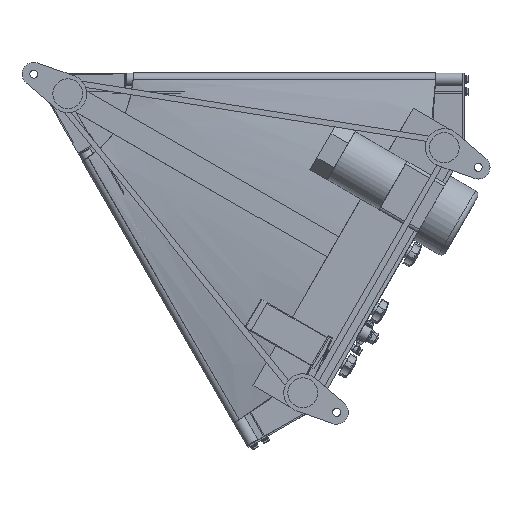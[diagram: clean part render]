
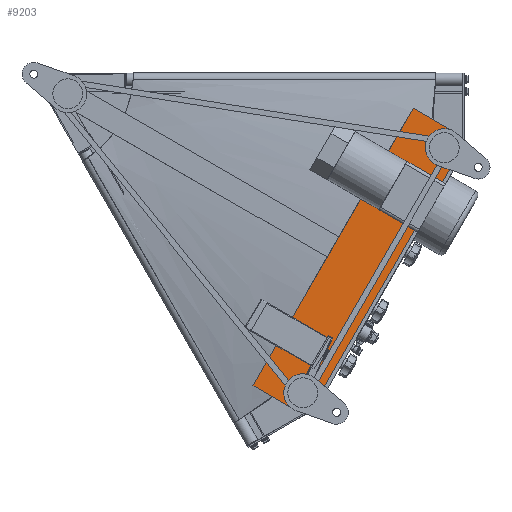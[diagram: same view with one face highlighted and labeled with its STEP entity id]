
A CAD part, front view. The second image highlights one B-rep face of the part: STEP entity #9203.
In plain terms, the highlighted planar face has unit normal (0, -1, 0).
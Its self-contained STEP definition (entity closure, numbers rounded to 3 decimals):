
#173 = DIRECTION ( 'NONE',  ( -0.966, 0., -0.259 ) ) ;
#488 = LINE ( 'NONE', #11726, #7802 ) ;
#623 = EDGE_CURVE ( 'NONE', #30992, #2539, #24780, .T. ) ;
#697 = CARTESIAN_POINT ( 'NONE',  ( 612.827, -167.5, -56.48 ) ) ;
#1005 = VECTOR ( 'NONE', #15066, 1000. ) ;
#2539 = VERTEX_POINT ( 'NONE', #18213 ) ;
#3362 = CARTESIAN_POINT ( 'NONE',  ( 456.929, -167.5, -526.503 ) ) ;
#4043 = VECTOR ( 'NONE', #173, 1000. ) ;
#4091 = LINE ( 'NONE', #3362, #17678 ) ;
#4757 = LINE ( 'NONE', #6599, #7203 ) ;
#4894 = ORIENTED_EDGE ( 'NONE', *, *, #26137, .F. ) ;
#5098 = ORIENTED_EDGE ( 'NONE', *, *, #10538, .F. ) ;
#5139 = VERTEX_POINT ( 'NONE', #18744 ) ;
#5459 = AXIS2_PLACEMENT_3D ( 'NONE', #21938, #8838, #6172 ) ;
#5719 = VERTEX_POINT ( 'NONE', #697 ) ;
#5967 = DIRECTION ( 'NONE',  ( -0.5, 0., -0.866 ) ) ;
#6172 = DIRECTION ( 'NONE',  ( 0.208, 0., 0.978 ) ) ;
#6599 = CARTESIAN_POINT ( 'NONE',  ( 355.327, -167.5, -502.483 ) ) ;
#7203 = VECTOR ( 'NONE', #32675, 1000. ) ;
#7311 = DIRECTION ( 'NONE',  ( 0.259, 0., -0.966 ) ) ;
#7802 = VECTOR ( 'NONE', #7311, 1000. ) ;
#8838 = DIRECTION ( 'NONE',  ( 0., 1., 0. ) ) ;
#9120 = FACE_OUTER_BOUND ( 'NONE', #24627, .T. ) ;
#9203 = ADVANCED_FACE ( 'NONE', ( #9120 ), #14008, .F. ) ;
#10538 = EDGE_CURVE ( 'NONE', #5139, #33567, #4091, .T. ) ;
#11726 = CARTESIAN_POINT ( 'NONE',  ( 684.429, -167.5, -132.461 ) ) ;
#14008 = PLANE ( 'NONE',  #5459 ) ;
#14313 = LINE ( 'NONE', #28720, #4043 ) ;
#15066 = DIRECTION ( 'NONE',  ( 0.866, 0., -0.5 ) ) ;
#17678 = VECTOR ( 'NONE', #5967, 1000. ) ;
#17844 = VERTEX_POINT ( 'NONE', #32522 ) ;
#18213 = CARTESIAN_POINT ( 'NONE',  ( 355.327, -167.5, -502.483 ) ) ;
#18744 = CARTESIAN_POINT ( 'NONE',  ( 684.429, -167.5, -132.461 ) ) ;
#19846 = CARTESIAN_POINT ( 'NONE',  ( 355.327, -167.5, -502.483 ) ) ;
#20260 = CARTESIAN_POINT ( 'NONE',  ( 612.827, -167.5, -56.48 ) ) ;
#20279 = EDGE_CURVE ( 'NONE', #2539, #5719, #4757, .T. ) ;
#21938 = CARTESIAN_POINT ( 'NONE',  ( 9.062, -167.5, -5.232 ) ) ;
#24627 = EDGE_LOOP ( 'NONE', ( #4894, #27009, #29609, #27188, #28577, #5098 ) ) ;
#24633 = CARTESIAN_POINT ( 'NONE',  ( 415.948, -167.5, -537.483 ) ) ;
#24780 = LINE ( 'NONE', #19846, #31341 ) ;
#25073 = DIRECTION ( 'NONE',  ( -0.866, 0., 0.5 ) ) ;
#26137 = EDGE_CURVE ( 'NONE', #17844, #5139, #488, .T. ) ;
#27009 = ORIENTED_EDGE ( 'NONE', *, *, #30552, .F. ) ;
#27188 = ORIENTED_EDGE ( 'NONE', *, *, #623, .F. ) ;
#27245 = LINE ( 'NONE', #20260, #1005 ) ;
#27549 = EDGE_CURVE ( 'NONE', #33567, #30992, #14313, .T. ) ;
#28577 = ORIENTED_EDGE ( 'NONE', *, *, #27549, .F. ) ;
#28720 = CARTESIAN_POINT ( 'NONE',  ( 415.948, -167.5, -537.483 ) ) ;
#29609 = ORIENTED_EDGE ( 'NONE', *, *, #20279, .F. ) ;
#30184 = CARTESIAN_POINT ( 'NONE',  ( 456.929, -167.5, -526.503 ) ) ;
#30552 = EDGE_CURVE ( 'NONE', #5719, #17844, #27245, .T. ) ;
#30992 = VERTEX_POINT ( 'NONE', #24633 ) ;
#31341 = VECTOR ( 'NONE', #25073, 1000. ) ;
#32522 = CARTESIAN_POINT ( 'NONE',  ( 673.448, -167.5, -91.48 ) ) ;
#32675 = DIRECTION ( 'NONE',  ( 0.5, 0., 0.866 ) ) ;
#33567 = VERTEX_POINT ( 'NONE', #30184 ) ;
